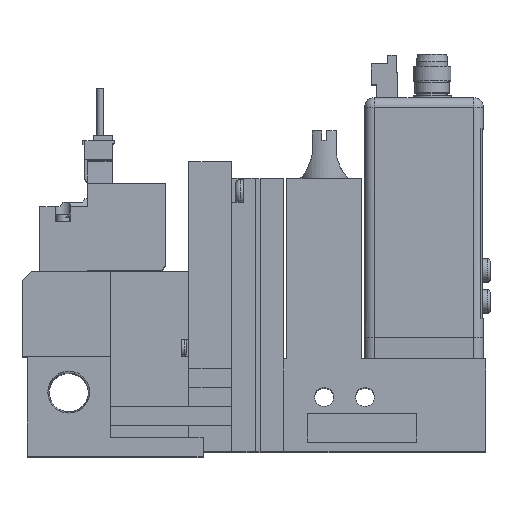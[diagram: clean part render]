
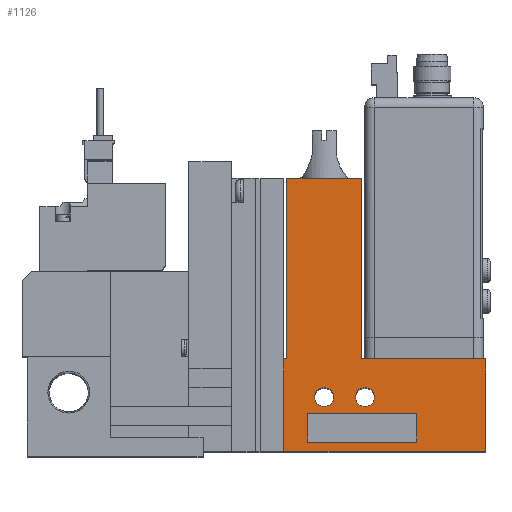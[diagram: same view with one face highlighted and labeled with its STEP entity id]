
A CAD part, top view. The second image highlights one B-rep face of the part: STEP entity #1126.
In plain terms, the highlighted planar face has unit normal (0, 0, 1).
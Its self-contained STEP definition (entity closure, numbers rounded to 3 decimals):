
#1126=ADVANCED_FACE('',(#4765,#4766,#4767,#4768),#4769,.T.);
#4765=FACE_BOUND('',#12422,.T.);
#4766=FACE_BOUND('',#12423,.T.);
#4767=FACE_BOUND('',#12424,.T.);
#4768=FACE_OUTER_BOUND('',#12425,.T.);
#4769=PLANE('',#12426);
#12422=EDGE_LOOP('',(#21956,#21957,#21958,#21959));
#12423=EDGE_LOOP('',(#21960));
#12424=EDGE_LOOP('',(#21961));
#12425=EDGE_LOOP('',(#21962,#21963,#21964,#21965,#21966,#21967,#21968,#21969));
#12426=AXIS2_PLACEMENT_3D('',#21970,#21971,#21972);
#21956=ORIENTED_EDGE('',*,*,#46516,.T.);
#21957=ORIENTED_EDGE('',*,*,#46608,.T.);
#21958=ORIENTED_EDGE('',*,*,#46611,.T.);
#21959=ORIENTED_EDGE('',*,*,#46612,.T.);
#21960=ORIENTED_EDGE('',*,*,#46613,.T.);
#21961=ORIENTED_EDGE('',*,*,#46574,.T.);
#21962=ORIENTED_EDGE('',*,*,#46614,.F.);
#21963=ORIENTED_EDGE('',*,*,#46615,.T.);
#21964=ORIENTED_EDGE('',*,*,#46507,.T.);
#21965=ORIENTED_EDGE('',*,*,#46519,.T.);
#21966=ORIENTED_EDGE('',*,*,#46522,.T.);
#21967=ORIENTED_EDGE('',*,*,#46534,.T.);
#21968=ORIENTED_EDGE('',*,*,#46579,.T.);
#21969=ORIENTED_EDGE('',*,*,#46448,.T.);
#21970=CARTESIAN_POINT('',(0.0,0.0,10.0));
#21971=DIRECTION('',(0.0,0.0,1.0));
#21972=DIRECTION('',(1.0,0.0,0.0));
#46448=EDGE_CURVE('',#56096,#56094,#56097,.T.);
#46507=EDGE_CURVE('',#56203,#56201,#56204,.T.);
#46516=EDGE_CURVE('',#56213,#56218,#56220,.T.);
#46519=EDGE_CURVE('',#56201,#56223,#56225,.T.);
#46522=EDGE_CURVE('',#56223,#56228,#56230,.T.);
#46534=EDGE_CURVE('',#56228,#56249,#56251,.T.);
#46574=EDGE_CURVE('',#56318,#56318,#56319,.T.);
#46579=EDGE_CURVE('',#56249,#56096,#56325,.T.);
#46608=EDGE_CURVE('',#56218,#56369,#56371,.T.);
#46611=EDGE_CURVE('',#56369,#56375,#56376,.T.);
#46612=EDGE_CURVE('',#56375,#56213,#56377,.T.);
#46613=EDGE_CURVE('',#56378,#56378,#56379,.T.);
#46614=EDGE_CURVE('',#56380,#56094,#56381,.T.);
#46615=EDGE_CURVE('',#56380,#56203,#56382,.T.);
#56094=VERTEX_POINT('',#70435);
#56096=VERTEX_POINT('',#70438);
#56097=LINE('',#70439,#70440);
#56201=VERTEX_POINT('',#70643);
#56203=VERTEX_POINT('',#70646);
#56204=LINE('',#70647,#70648);
#56213=VERTEX_POINT('',#70661);
#56218=VERTEX_POINT('',#70668);
#56220=LINE('',#70671,#70672);
#56223=VERTEX_POINT('',#70676);
#56225=LINE('',#70679,#70680);
#56228=VERTEX_POINT('',#70684);
#56230=LINE('',#70687,#70688);
#56249=VERTEX_POINT('',#70712);
#56251=LINE('',#70715,#70716);
#56318=VERTEX_POINT('',#70820);
#56319=CIRCLE('',#70821,2.0);
#56325=LINE('',#70830,#70831);
#56369=VERTEX_POINT('',#70900);
#56371=LINE('',#70903,#70904);
#56375=VERTEX_POINT('',#70910);
#56376=LINE('',#70911,#70912);
#56377=LINE('',#70913,#70914);
#56378=VERTEX_POINT('',#70915);
#56379=CIRCLE('',#70916,2.0);
#56380=VERTEX_POINT('',#70917);
#56381=LINE('',#70918,#70919);
#56382=LINE('',#70920,#70921);
#70435=CARTESIAN_POINT('',(55.1,19.5,10.0));
#70438=CARTESIAN_POINT('',(55.75,19.5,10.0));
#70439=CARTESIAN_POINT('',(55.75,19.5,10.0));
#70440=VECTOR('',#90920,1.0);
#70643=CARTESIAN_POINT('',(97.6,19.5,10.0));
#70646=CARTESIAN_POINT('',(97.6,0.0,10.0));
#70647=CARTESIAN_POINT('',(97.6,0.0,10.0));
#70648=VECTOR('',#90989,1.0);
#70661=CARTESIAN_POINT('',(60.1,2.0,10.0));
#70668=CARTESIAN_POINT('',(60.1,8.0,10.0));
#70671=CARTESIAN_POINT('',(60.1,0.0,10.0));
#70672=VECTOR('',#91000,1.0);
#70676=CARTESIAN_POINT('',(71.45,19.5,10.0));
#70679=CARTESIAN_POINT('',(97.6,19.5,10.0));
#70680=VECTOR('',#91003,1.0);
#70684=CARTESIAN_POINT('',(71.45,57.5,10.0));
#70687=CARTESIAN_POINT('',(71.45,19.5,10.0));
#70688=VECTOR('',#91006,1.0);
#70712=CARTESIAN_POINT('',(55.75,57.5,10.0));
#70715=CARTESIAN_POINT('',(71.45,57.5,10.0));
#70716=VECTOR('',#91028,1.0);
#70820=CARTESIAN_POINT('',(74.2,11.5,10.0));
#70821=AXIS2_PLACEMENT_3D('',#91072,#91073,#91074);
#70830=CARTESIAN_POINT('',(55.75,57.5,10.0));
#70831=VECTOR('',#91081,1.0);
#70900=CARTESIAN_POINT('',(83.1,8.0,10.0));
#70903=CARTESIAN_POINT('',(0.0,8.0,10.0));
#70904=VECTOR('',#91111,1.0);
#70910=CARTESIAN_POINT('',(83.1,2.0,10.0));
#70911=CARTESIAN_POINT('',(83.1,0.0,10.0));
#70912=VECTOR('',#91114,1.0);
#70913=CARTESIAN_POINT('',(0.0,2.0,10.0));
#70914=VECTOR('',#91115,1.0);
#70915=CARTESIAN_POINT('',(65.6,11.5,10.0));
#70916=AXIS2_PLACEMENT_3D('',#91116,#91117,#91118);
#70917=CARTESIAN_POINT('',(55.1,0.0,10.0));
#70918=CARTESIAN_POINT('',(55.1,0.0,10.0));
#70919=VECTOR('',#91119,1.0);
#70920=CARTESIAN_POINT('',(18.6,0.0,10.0));
#70921=VECTOR('',#91120,1.0);
#90920=DIRECTION('',(-1.0,0.0,0.0));
#90989=DIRECTION('',(0.0,1.0,0.0));
#91000=DIRECTION('',(0.0,1.0,0.0));
#91003=DIRECTION('',(-1.0,0.0,0.0));
#91006=DIRECTION('',(0.0,1.0,0.0));
#91028=DIRECTION('',(-1.0,0.0,0.0));
#91072=CARTESIAN_POINT('',(72.2,11.5,10.0));
#91073=DIRECTION('',(0.0,0.0,-1.0));
#91074=DIRECTION('',(1.0,0.0,0.0));
#91081=DIRECTION('',(0.0,-1.0,0.0));
#91111=DIRECTION('',(1.0,0.0,0.0));
#91114=DIRECTION('',(0.0,-1.0,0.0));
#91115=DIRECTION('',(-1.0,0.0,0.0));
#91116=CARTESIAN_POINT('',(63.6,11.5,10.0));
#91117=DIRECTION('',(0.0,0.0,-1.0));
#91118=DIRECTION('',(1.0,0.0,0.0));
#91119=DIRECTION('',(0.0,1.0,0.0));
#91120=DIRECTION('',(1.0,0.0,0.0));
